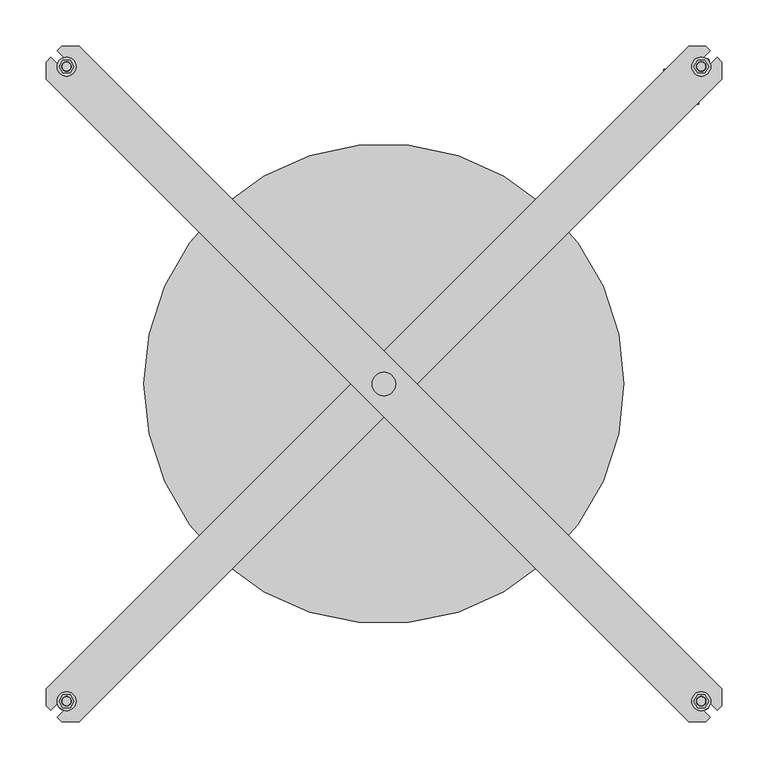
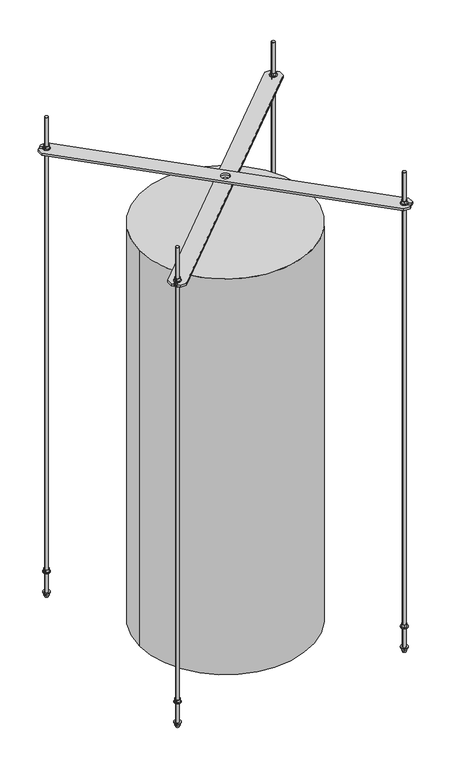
"""IFC4 building model written with IfcOpenShell, lengths in millimetres: proxy geometry, 50 SWHP-C : #50-SWHP-C."""

from ifc_helpers import new_model, si_unit, point, frame, frame_2d, origin, origin_2d, place, context, project, spatial, polyline, circle_curve, trimmed, segment, composite_curve, outline, extrude, source, transform, mapped, element, save
from ifc_brep_helpers import plane_surface, cylinder_surface, revolved_surface, advanced_brep


def generic_models_6d0b2e81(model_context):
    return source(origin(), model_context, "Body", "SolidModel", [
        extrude(outline(composite_curve([segment(trimmed(circle_curve(frame_2d((344.3986, 344.3986)), 10.31875), [point((334.07985, 344.3986))], [point((354.71735, 344.3986))], False, "CARTESIAN"), True, "CONTINUOUS"), segment(trimmed(circle_curve(frame_2d((344.3986, 344.3986)), 10.31875), [point((354.71735, 344.3986))], [point((334.07985, 344.3986))], False, "CARTESIAN"), True, "CONTINUOUS")], self_intersect=False), holes=[composite_curve([segment(trimmed(circle_curve(frame_2d((344.3986, 344.3986)), 5.159375), [point((339.239225, 344.3986))], [point((349.557975, 344.3986))], True, "CARTESIAN"), True, "CONTINUOUS"), segment(trimmed(circle_curve(frame_2d((344.3986, 344.3986)), 5.159375), [point((349.557975, 344.3986))], [point((339.239225, 344.3986))], True, "CARTESIAN"), True, "CONTINUOUS")], self_intersect=False)]), frame((0.0, 0.0, 1416.05), z_axis=(0.0, 0.0, 1.0), x_axis=(1.0, 0.0, 0.0)), (0.0, 0.0, 1.0), 1.5875),
        extrude(outline(polyline([(340.42985, 351.2726766), (348.36735, 351.2726766), (352.3361, 344.3986), (348.36735, 337.5245234), (340.42985, 337.5245234), (336.4611, 344.3986), (340.42985, 351.2726766)]), holes=[composite_curve([segment(trimmed(circle_curve(frame_2d((344.3986, 344.3986)), 5.159375), [point((339.239225, 344.3986))], [point((349.557975, 344.3986))], True, "CARTESIAN"), True, "CONTINUOUS"), segment(trimmed(circle_curve(frame_2d((344.3986, 344.3986)), 5.159375), [point((349.557975, 344.3986))], [point((339.239225, 344.3986))], True, "CARTESIAN"), True, "CONTINUOUS")], self_intersect=False)]), frame((0.0, 0.0, 1417.6375), z_axis=(0.0, 0.0, 1.0), x_axis=(1.0, 0.0, 0.0)), (0.0, 0.0, 1.0), 7.9375),
        extrude(outline(composite_curve([segment(trimmed(circle_curve(frame_2d((-344.3986, 344.3986)), 10.31875), [point((-354.71735, 344.3986))], [point((-334.07985, 344.3986))], False, "CARTESIAN"), True, "CONTINUOUS"), segment(trimmed(circle_curve(frame_2d((-344.3986, 344.3986)), 10.31875), [point((-334.07985, 344.3986))], [point((-354.71735, 344.3986))], False, "CARTESIAN"), True, "CONTINUOUS")], self_intersect=False), holes=[composite_curve([segment(trimmed(circle_curve(frame_2d((-344.3986, 344.3986)), 5.159375), [point((-349.557975, 344.3986))], [point((-339.239225, 344.3986))], True, "CARTESIAN"), True, "CONTINUOUS"), segment(trimmed(circle_curve(frame_2d((-344.3986, 344.3986)), 5.159375), [point((-339.239225, 344.3986))], [point((-349.557975, 344.3986))], True, "CARTESIAN"), True, "CONTINUOUS")], self_intersect=False)]), frame((0.0, 0.0, 1422.4), z_axis=(0.0, 0.0, 1.0), x_axis=(1.0, 0.0, 0.0)), (0.0, 0.0, 1.0), 1.5875),
        extrude(outline(polyline([(-348.36735, 351.2726766), (-340.42985, 351.2726766), (-336.4611, 344.3986), (-340.42985, 337.5245234), (-348.36735, 337.5245234), (-352.3361, 344.3986), (-348.36735, 351.2726766)]), holes=[composite_curve([segment(trimmed(circle_curve(frame_2d((-344.3986, 344.3986)), 5.159375), [point((-349.557975, 344.3986))], [point((-339.239225, 344.3986))], True, "CARTESIAN"), True, "CONTINUOUS"), segment(trimmed(circle_curve(frame_2d((-344.3986, 344.3986)), 5.159375), [point((-339.239225, 344.3986))], [point((-349.557975, 344.3986))], True, "CARTESIAN"), True, "CONTINUOUS")], self_intersect=False)]), frame((0.0, 0.0, 1423.9875), z_axis=(0.0, 0.0, 1.0), x_axis=(1.0, 0.0, 0.0)), (0.0, 0.0, 1.0), 7.9375),
        extrude(outline(composite_curve([segment(trimmed(circle_curve(frame_2d((344.3986, 344.3986)), 10.31875), [point((334.07985, 344.3986))], [point((354.71735, 344.3986))], False, "CARTESIAN"), True, "CONTINUOUS"), segment(trimmed(circle_curve(frame_2d((344.3986, 344.3986)), 10.31875), [point((354.71735, 344.3986))], [point((334.07985, 344.3986))], False, "CARTESIAN"), True, "CONTINUOUS")], self_intersect=False), holes=[composite_curve([segment(trimmed(circle_curve(frame_2d((344.3986, 344.3986)), 5.159375), [point((339.239225, 344.3986))], [point((349.557975, 344.3986))], True, "CARTESIAN"), True, "CONTINUOUS"), segment(trimmed(circle_curve(frame_2d((344.3986, 344.3986)), 5.159375), [point((349.557975, 344.3986))], [point((339.239225, 344.3986))], True, "CARTESIAN"), True, "CONTINUOUS")], self_intersect=False)]), frame((0.0, 0.0, 1408.1125), z_axis=(0.0, 0.0, 1.0), x_axis=(1.0, 0.0, 0.0)), (0.0, 0.0, 1.0), 1.5875),
        extrude(outline(polyline([(340.42985, 351.2726766), (348.36735, 351.2726766), (352.3361, 344.3986), (348.36735, 337.5245234), (340.42985, 337.5245234), (336.4611, 344.3986), (340.42985, 351.2726766)]), holes=[composite_curve([segment(trimmed(circle_curve(frame_2d((344.3986, 344.3986)), 5.159375), [point((339.239225, 344.3986))], [point((349.557975, 344.3986))], True, "CARTESIAN"), True, "CONTINUOUS"), segment(trimmed(circle_curve(frame_2d((344.3986, 344.3986)), 5.159375), [point((349.557975, 344.3986))], [point((339.239225, 344.3986))], True, "CARTESIAN"), True, "CONTINUOUS")], self_intersect=False)]), frame((0.0, 0.0, 1400.175), z_axis=(0.0, 0.0, 1.0), x_axis=(1.0, 0.0, 0.0)), (0.0, 0.0, 1.0), 7.9375),
        extrude(outline(composite_curve([segment(trimmed(circle_curve(frame_2d((-344.3986, 344.3986)), 10.31875), [point((-354.71735, 344.3986))], [point((-334.07985, 344.3986))], False, "CARTESIAN"), True, "CONTINUOUS"), segment(trimmed(circle_curve(frame_2d((-344.3986, 344.3986)), 10.31875), [point((-334.07985, 344.3986))], [point((-354.71735, 344.3986))], False, "CARTESIAN"), True, "CONTINUOUS")], self_intersect=False), holes=[composite_curve([segment(trimmed(circle_curve(frame_2d((-344.3986, 344.3986)), 5.159375), [point((-349.557975, 344.3986))], [point((-339.239225, 344.3986))], True, "CARTESIAN"), True, "CONTINUOUS"), segment(trimmed(circle_curve(frame_2d((-344.3986, 344.3986)), 5.159375), [point((-339.239225, 344.3986))], [point((-349.557975, 344.3986))], True, "CARTESIAN"), True, "CONTINUOUS")], self_intersect=False)]), frame((0.0, 0.0, 1414.4625), z_axis=(0.0, 0.0, 1.0), x_axis=(1.0, 0.0, 0.0)), (0.0, 0.0, 1.0), 1.5875),
        extrude(outline(polyline([(-348.36735, 351.2726766), (-340.42985, 351.2726766), (-336.4611, 344.3986), (-340.42985, 337.5245234), (-348.36735, 337.5245234), (-352.3361, 344.3986), (-348.36735, 351.2726766)]), holes=[composite_curve([segment(trimmed(circle_curve(frame_2d((-344.3986, 344.3986)), 5.159375), [point((-349.557975, 344.3986))], [point((-339.239225, 344.3986))], True, "CARTESIAN"), True, "CONTINUOUS"), segment(trimmed(circle_curve(frame_2d((-344.3986, 344.3986)), 5.159375), [point((-339.239225, 344.3986))], [point((-349.557975, 344.3986))], True, "CARTESIAN"), True, "CONTINUOUS")], self_intersect=False)]), frame((0.0, 0.0, 1406.525), z_axis=(0.0, 0.0, 1.0), x_axis=(1.0, 0.0, 0.0)), (0.0, 0.0, 1.0), 7.9375),
        extrude(outline(composite_curve([segment(trimmed(circle_curve(frame_2d((344.3986, -344.3986)), 10.31875), [point((334.07985, -344.3986))], [point((354.71735, -344.3986))], False, "CARTESIAN"), True, "CONTINUOUS"), segment(trimmed(circle_curve(frame_2d((344.3986, -344.3986)), 10.31875), [point((354.71735, -344.3986))], [point((334.07985, -344.3986))], False, "CARTESIAN"), True, "CONTINUOUS")], self_intersect=False), holes=[composite_curve([segment(trimmed(circle_curve(frame_2d((344.3986, -344.3986)), 5.159375), [point((339.239225, -344.3986))], [point((349.557975, -344.3986))], True, "CARTESIAN"), True, "CONTINUOUS"), segment(trimmed(circle_curve(frame_2d((344.3986, -344.3986)), 5.159375), [point((349.557975, -344.3986))], [point((339.239225, -344.3986))], True, "CARTESIAN"), True, "CONTINUOUS")], self_intersect=False)]), frame((0.0, 0.0, 1414.4625), z_axis=(0.0, 0.0, 1.0), x_axis=(1.0, 0.0, 0.0)), (0.0, 0.0, 1.0), 1.5875),
        extrude(outline(polyline([(340.42985, -337.5245234), (348.36735, -337.5245234), (352.3361, -344.3986), (348.36735, -351.2726766), (340.42985, -351.2726766), (336.4611, -344.3986), (340.42985, -337.5245234)]), holes=[composite_curve([segment(trimmed(circle_curve(frame_2d((344.3986, -344.3986)), 5.159375), [point((339.239225, -344.3986))], [point((349.557975, -344.3986))], True, "CARTESIAN"), True, "CONTINUOUS"), segment(trimmed(circle_curve(frame_2d((344.3986, -344.3986)), 5.159375), [point((349.557975, -344.3986))], [point((339.239225, -344.3986))], True, "CARTESIAN"), True, "CONTINUOUS")], self_intersect=False)]), frame((0.0, 0.0, 1406.525), z_axis=(0.0, 0.0, 1.0), x_axis=(1.0, 0.0, 0.0)), (0.0, 0.0, 1.0), 7.9375),
        extrude(outline(composite_curve([segment(trimmed(circle_curve(frame_2d((-344.3986, -344.3986)), 10.31875), [point((-354.71735, -344.3986))], [point((-334.07985, -344.3986))], False, "CARTESIAN"), True, "CONTINUOUS"), segment(trimmed(circle_curve(frame_2d((-344.3986, -344.3986)), 10.31875), [point((-334.07985, -344.3986))], [point((-354.71735, -344.3986))], False, "CARTESIAN"), True, "CONTINUOUS")], self_intersect=False), holes=[composite_curve([segment(trimmed(circle_curve(frame_2d((-344.3986, -344.3986)), 5.159375), [point((-349.557975, -344.3986))], [point((-339.239225, -344.3986))], True, "CARTESIAN"), True, "CONTINUOUS"), segment(trimmed(circle_curve(frame_2d((-344.3986, -344.3986)), 5.159375), [point((-339.239225, -344.3986))], [point((-349.557975, -344.3986))], True, "CARTESIAN"), True, "CONTINUOUS")], self_intersect=False)]), frame((0.0, 0.0, 1408.1125), z_axis=(0.0, 0.0, 1.0), x_axis=(1.0, 0.0, 0.0)), (0.0, 0.0, 1.0), 1.5875),
        extrude(outline(polyline([(-348.36735, -337.5245234), (-340.42985, -337.5245234), (-336.4611, -344.3986), (-340.42985, -351.2726766), (-348.36735, -351.2726766), (-352.3361, -344.3986), (-348.36735, -337.5245234)]), holes=[composite_curve([segment(trimmed(circle_curve(frame_2d((-344.3986, -344.3986)), 5.159375), [point((-349.557975, -344.3986))], [point((-339.239225, -344.3986))], True, "CARTESIAN"), True, "CONTINUOUS"), segment(trimmed(circle_curve(frame_2d((-344.3986, -344.3986)), 5.159375), [point((-339.239225, -344.3986))], [point((-349.557975, -344.3986))], True, "CARTESIAN"), True, "CONTINUOUS")], self_intersect=False)]), frame((0.0, 0.0, 1400.175), z_axis=(0.0, 0.0, 1.0), x_axis=(1.0, 0.0, 0.0)), (0.0, 0.0, 1.0), 7.9375),
        extrude(outline(composite_curve([segment(trimmed(circle_curve(frame_2d((344.3986, -344.3986)), 10.31875), [point((334.07985, -344.3986))], [point((354.71735, -344.3986))], False, "CARTESIAN"), True, "CONTINUOUS"), segment(trimmed(circle_curve(frame_2d((344.3986, -344.3986)), 10.31875), [point((354.71735, -344.3986))], [point((334.07985, -344.3986))], False, "CARTESIAN"), True, "CONTINUOUS")], self_intersect=False), holes=[composite_curve([segment(trimmed(circle_curve(frame_2d((344.3986, -344.3986)), 5.159375), [point((339.239225, -344.3986))], [point((349.557975, -344.3986))], True, "CARTESIAN"), True, "CONTINUOUS"), segment(trimmed(circle_curve(frame_2d((344.3986, -344.3986)), 5.159375), [point((349.557975, -344.3986))], [point((339.239225, -344.3986))], True, "CARTESIAN"), True, "CONTINUOUS")], self_intersect=False)]), frame((0.0, 0.0, 1422.4), z_axis=(0.0, 0.0, 1.0), x_axis=(1.0, 0.0, 0.0)), (0.0, 0.0, 1.0), 1.5875),
        extrude(outline(polyline([(340.42985, -337.5245234), (348.36735, -337.5245234), (352.3361, -344.3986), (348.36735, -351.2726766), (340.42985, -351.2726766), (336.4611, -344.3986), (340.42985, -337.5245234)]), holes=[composite_curve([segment(trimmed(circle_curve(frame_2d((344.3986, -344.3986)), 5.159375), [point((339.239225, -344.3986))], [point((349.557975, -344.3986))], True, "CARTESIAN"), True, "CONTINUOUS"), segment(trimmed(circle_curve(frame_2d((344.3986, -344.3986)), 5.159375), [point((349.557975, -344.3986))], [point((339.239225, -344.3986))], True, "CARTESIAN"), True, "CONTINUOUS")], self_intersect=False)]), frame((0.0, 0.0, 1423.9875), z_axis=(0.0, 0.0, 1.0), x_axis=(1.0, 0.0, 0.0)), (0.0, 0.0, 1.0), 7.9375),
        extrude(outline(composite_curve([segment(trimmed(circle_curve(frame_2d((-344.3986, -344.3986)), 10.31875), [point((-354.71735, -344.3986))], [point((-334.07985, -344.3986))], False, "CARTESIAN"), True, "CONTINUOUS"), segment(trimmed(circle_curve(frame_2d((-344.3986, -344.3986)), 10.31875), [point((-334.07985, -344.3986))], [point((-354.71735, -344.3986))], False, "CARTESIAN"), True, "CONTINUOUS")], self_intersect=False), holes=[composite_curve([segment(trimmed(circle_curve(frame_2d((-344.3986, -344.3986)), 5.159375), [point((-349.557975, -344.3986))], [point((-339.239225, -344.3986))], True, "CARTESIAN"), True, "CONTINUOUS"), segment(trimmed(circle_curve(frame_2d((-344.3986, -344.3986)), 5.159375), [point((-339.239225, -344.3986))], [point((-349.557975, -344.3986))], True, "CARTESIAN"), True, "CONTINUOUS")], self_intersect=False)]), frame((0.0, 0.0, 1416.05), z_axis=(0.0, 0.0, 1.0), x_axis=(1.0, 0.0, 0.0)), (0.0, 0.0, 1.0), 1.5875),
        extrude(outline(polyline([(-348.36735, -337.5245234), (-340.42985, -337.5245234), (-336.4611, -344.3986), (-340.42985, -351.2726766), (-348.36735, -351.2726766), (-352.3361, -344.3986), (-348.36735, -337.5245234)]), holes=[composite_curve([segment(trimmed(circle_curve(frame_2d((-344.3986, -344.3986)), 5.159375), [point((-349.557975, -344.3986))], [point((-339.239225, -344.3986))], True, "CARTESIAN"), True, "CONTINUOUS"), segment(trimmed(circle_curve(frame_2d((-344.3986, -344.3986)), 5.159375), [point((-339.239225, -344.3986))], [point((-349.557975, -344.3986))], True, "CARTESIAN"), True, "CONTINUOUS")], self_intersect=False)]), frame((0.0, 0.0, 1417.6375), z_axis=(0.0, 0.0, 1.0), x_axis=(1.0, 0.0, 0.0)), (0.0, 0.0, 1.0), 7.9375),
        extrude(outline(composite_curve([segment(trimmed(circle_curve(frame_2d((-344.3986, 344.3986)), 10.31875), [point((-354.71735, 344.3986))], [point((-334.07985, 344.3986))], False, "CARTESIAN"), True, "CONTINUOUS"), segment(trimmed(circle_curve(frame_2d((-344.3986, 344.3986)), 10.31875), [point((-334.07985, 344.3986))], [point((-354.71735, 344.3986))], False, "CARTESIAN"), True, "CONTINUOUS")], self_intersect=False), holes=[composite_curve([segment(trimmed(circle_curve(frame_2d((-344.3986, 344.3986)), 5.159375), [point((-349.557975, 344.3986))], [point((-339.239225, 344.3986))], True, "CARTESIAN"), True, "CONTINUOUS"), segment(trimmed(circle_curve(frame_2d((-344.3986, 344.3986)), 5.159375), [point((-339.239225, 344.3986))], [point((-349.557975, 344.3986))], True, "CARTESIAN"), True, "CONTINUOUS")], self_intersect=False)]), frame((0.0, 0.0, -1.5875), z_axis=(0.0, 0.0, 1.0), x_axis=(1.0, 0.0, 0.0)), (0.0, 0.0, 1.0), 1.5875),
        extrude(outline(polyline([(-348.36735, 351.2726766), (-340.42985, 351.2726766), (-336.4611, 344.3986), (-340.42985, 337.5245234), (-348.36735, 337.5245234), (-352.3361, 344.3986), (-348.36735, 351.2726766)]), holes=[composite_curve([segment(trimmed(circle_curve(frame_2d((-344.3986, 344.3986)), 5.159375), [point((-349.557975, 344.3986))], [point((-339.239225, 344.3986))], True, "CARTESIAN"), True, "CONTINUOUS"), segment(trimmed(circle_curve(frame_2d((-344.3986, 344.3986)), 5.159375), [point((-339.239225, 344.3986))], [point((-349.557975, 344.3986))], True, "CARTESIAN"), True, "CONTINUOUS")], self_intersect=False)]), frame((0.0, 0.0, -9.525), z_axis=(0.0, 0.0, 1.0), x_axis=(1.0, 0.0, 0.0)), (0.0, 0.0, 1.0), 7.9375),
        extrude(outline(composite_curve([segment(trimmed(circle_curve(frame_2d((344.3986, 344.3986)), 10.31875), [point((334.07985, 344.3986))], [point((354.71735, 344.3986))], False, "CARTESIAN"), True, "CONTINUOUS"), segment(trimmed(circle_curve(frame_2d((344.3986, 344.3986)), 10.31875), [point((354.71735, 344.3986))], [point((334.07985, 344.3986))], False, "CARTESIAN"), True, "CONTINUOUS")], self_intersect=False), holes=[composite_curve([segment(trimmed(circle_curve(frame_2d((344.3986, 344.3986)), 5.159375), [point((339.239225, 344.3986))], [point((349.557975, 344.3986))], True, "CARTESIAN"), True, "CONTINUOUS"), segment(trimmed(circle_curve(frame_2d((344.3986, 344.3986)), 5.159375), [point((349.557975, 344.3986))], [point((339.239225, 344.3986))], True, "CARTESIAN"), True, "CONTINUOUS")], self_intersect=False)]), frame((0.0, 0.0, -1.5875), z_axis=(0.0, 0.0, 1.0), x_axis=(1.0, 0.0, 0.0)), (0.0, 0.0, 1.0), 1.5875),
        extrude(outline(polyline([(340.42985, 351.2726766), (348.36735, 351.2726766), (352.3361, 344.3986), (348.36735, 337.5245234), (340.42985, 337.5245234), (336.4611, 344.3986), (340.42985, 351.2726766)]), holes=[composite_curve([segment(trimmed(circle_curve(frame_2d((344.3986, 344.3986)), 5.159375), [point((339.239225, 344.3986))], [point((349.557975, 344.3986))], True, "CARTESIAN"), True, "CONTINUOUS"), segment(trimmed(circle_curve(frame_2d((344.3986, 344.3986)), 5.159375), [point((349.557975, 344.3986))], [point((339.239225, 344.3986))], True, "CARTESIAN"), True, "CONTINUOUS")], self_intersect=False)]), frame((0.0, 0.0, -9.525), z_axis=(0.0, 0.0, 1.0), x_axis=(1.0, 0.0, 0.0)), (0.0, 0.0, 1.0), 7.9375),
        extrude(outline(composite_curve([segment(trimmed(circle_curve(frame_2d((-344.3986, 344.3986)), 10.31875), [point((-354.71735, 344.3986))], [point((-334.07985, 344.3986))], False, "CARTESIAN"), True, "CONTINUOUS"), segment(trimmed(circle_curve(frame_2d((-344.3986, 344.3986)), 10.31875), [point((-334.07985, 344.3986))], [point((-354.71735, 344.3986))], False, "CARTESIAN"), True, "CONTINUOUS")], self_intersect=False), holes=[composite_curve([segment(trimmed(circle_curve(frame_2d((-344.3986, 344.3986)), 5.159375), [point((-349.557975, 344.3986))], [point((-339.239225, 344.3986))], True, "CARTESIAN"), True, "CONTINUOUS"), segment(trimmed(circle_curve(frame_2d((-344.3986, 344.3986)), 5.159375), [point((-339.239225, 344.3986))], [point((-349.557975, 344.3986))], True, "CARTESIAN"), True, "CONTINUOUS")], self_intersect=False)]), frame((0.0, 0.0, 63.5), z_axis=(0.0, 0.0, 1.0), x_axis=(1.0, 0.0, 0.0)), (0.0, 0.0, 1.0), 1.5875),
        extrude(outline(polyline([(-348.36735, 351.2726766), (-340.42985, 351.2726766), (-336.4611, 344.3986), (-340.42985, 337.5245234), (-348.36735, 337.5245234), (-352.3361, 344.3986), (-348.36735, 351.2726766)]), holes=[composite_curve([segment(trimmed(circle_curve(frame_2d((-344.3986, 344.3986)), 5.159375), [point((-349.557975, 344.3986))], [point((-339.239225, 344.3986))], True, "CARTESIAN"), True, "CONTINUOUS"), segment(trimmed(circle_curve(frame_2d((-344.3986, 344.3986)), 5.159375), [point((-339.239225, 344.3986))], [point((-349.557975, 344.3986))], True, "CARTESIAN"), True, "CONTINUOUS")], self_intersect=False)]), frame((0.0, 0.0, 65.0875), z_axis=(0.0, 0.0, 1.0), x_axis=(1.0, 0.0, 0.0)), (0.0, 0.0, 1.0), 7.9375),
        extrude(outline(composite_curve([segment(trimmed(circle_curve(frame_2d((344.3986, 344.3986)), 10.31875), [point((334.07985, 344.3986))], [point((354.71735, 344.3986))], False, "CARTESIAN"), True, "CONTINUOUS"), segment(trimmed(circle_curve(frame_2d((344.3986, 344.3986)), 10.31875), [point((354.71735, 344.3986))], [point((334.07985, 344.3986))], False, "CARTESIAN"), True, "CONTINUOUS")], self_intersect=False), holes=[composite_curve([segment(trimmed(circle_curve(frame_2d((344.3986, 344.3986)), 5.159375), [point((339.239225, 344.3986))], [point((349.557975, 344.3986))], True, "CARTESIAN"), True, "CONTINUOUS"), segment(trimmed(circle_curve(frame_2d((344.3986, 344.3986)), 5.159375), [point((349.557975, 344.3986))], [point((339.239225, 344.3986))], True, "CARTESIAN"), True, "CONTINUOUS")], self_intersect=False)]), frame((0.0, 0.0, 63.5), z_axis=(0.0, 0.0, 1.0), x_axis=(1.0, 0.0, 0.0)), (0.0, 0.0, 1.0), 1.5875),
        extrude(outline(polyline([(340.42985, 351.2726766), (348.36735, 351.2726766), (352.3361, 344.3986), (348.36735, 337.5245234), (340.42985, 337.5245234), (336.4611, 344.3986), (340.42985, 351.2726766)]), holes=[composite_curve([segment(trimmed(circle_curve(frame_2d((344.3986, 344.3986)), 5.159375), [point((339.239225, 344.3986))], [point((349.557975, 344.3986))], True, "CARTESIAN"), True, "CONTINUOUS"), segment(trimmed(circle_curve(frame_2d((344.3986, 344.3986)), 5.159375), [point((349.557975, 344.3986))], [point((339.239225, 344.3986))], True, "CARTESIAN"), True, "CONTINUOUS")], self_intersect=False)]), frame((0.0, 0.0, 65.0875), z_axis=(0.0, 0.0, 1.0), x_axis=(1.0, 0.0, 0.0)), (0.0, 0.0, 1.0), 7.9375),
        extrude(outline(composite_curve([segment(trimmed(circle_curve(frame_2d((344.3986, -344.3986)), 10.31875), [point((334.07985, -344.3986))], [point((354.71735, -344.3986))], False, "CARTESIAN"), True, "CONTINUOUS"), segment(trimmed(circle_curve(frame_2d((344.3986, -344.3986)), 10.31875), [point((354.71735, -344.3986))], [point((334.07985, -344.3986))], False, "CARTESIAN"), True, "CONTINUOUS")], self_intersect=False), holes=[composite_curve([segment(trimmed(circle_curve(frame_2d((344.3986, -344.3986)), 5.159375), [point((339.239225, -344.3986))], [point((349.557975, -344.3986))], True, "CARTESIAN"), True, "CONTINUOUS"), segment(trimmed(circle_curve(frame_2d((344.3986, -344.3986)), 5.159375), [point((349.557975, -344.3986))], [point((339.239225, -344.3986))], True, "CARTESIAN"), True, "CONTINUOUS")], self_intersect=False)]), frame((0.0, 0.0, -1.5875), z_axis=(0.0, 0.0, 1.0), x_axis=(1.0, 0.0, 0.0)), (0.0, 0.0, 1.0), 1.5875),
        extrude(outline(polyline([(340.42985, -337.5245234), (348.36735, -337.5245234), (352.3361, -344.3986), (348.36735, -351.2726766), (340.42985, -351.2726766), (336.4611, -344.3986), (340.42985, -337.5245234)]), holes=[composite_curve([segment(trimmed(circle_curve(frame_2d((344.3986, -344.3986)), 5.159375), [point((339.239225, -344.3986))], [point((349.557975, -344.3986))], True, "CARTESIAN"), True, "CONTINUOUS"), segment(trimmed(circle_curve(frame_2d((344.3986, -344.3986)), 5.159375), [point((349.557975, -344.3986))], [point((339.239225, -344.3986))], True, "CARTESIAN"), True, "CONTINUOUS")], self_intersect=False)]), frame((0.0, 0.0, -9.525), z_axis=(0.0, 0.0, 1.0), x_axis=(1.0, 0.0, 0.0)), (0.0, 0.0, 1.0), 7.9375),
        extrude(outline(composite_curve([segment(trimmed(circle_curve(frame_2d((344.3986, -344.3986)), 10.31875), [point((334.07985, -344.3986))], [point((354.71735, -344.3986))], False, "CARTESIAN"), True, "CONTINUOUS"), segment(trimmed(circle_curve(frame_2d((344.3986, -344.3986)), 10.31875), [point((354.71735, -344.3986))], [point((334.07985, -344.3986))], False, "CARTESIAN"), True, "CONTINUOUS")], self_intersect=False), holes=[composite_curve([segment(trimmed(circle_curve(frame_2d((344.3986, -344.3986)), 5.159375), [point((339.239225, -344.3986))], [point((349.557975, -344.3986))], True, "CARTESIAN"), True, "CONTINUOUS"), segment(trimmed(circle_curve(frame_2d((344.3986, -344.3986)), 5.159375), [point((349.557975, -344.3986))], [point((339.239225, -344.3986))], True, "CARTESIAN"), True, "CONTINUOUS")], self_intersect=False)]), frame((0.0, 0.0, 63.5), z_axis=(0.0, 0.0, 1.0), x_axis=(1.0, 0.0, 0.0)), (0.0, 0.0, 1.0), 1.5875),
        extrude(outline(polyline([(340.42985, -337.5245234), (348.36735, -337.5245234), (352.3361, -344.3986), (348.36735, -351.2726766), (340.42985, -351.2726766), (336.4611, -344.3986), (340.42985, -337.5245234)]), holes=[composite_curve([segment(trimmed(circle_curve(frame_2d((344.3986, -344.3986)), 5.159375), [point((339.239225, -344.3986))], [point((349.557975, -344.3986))], True, "CARTESIAN"), True, "CONTINUOUS"), segment(trimmed(circle_curve(frame_2d((344.3986, -344.3986)), 5.159375), [point((349.557975, -344.3986))], [point((339.239225, -344.3986))], True, "CARTESIAN"), True, "CONTINUOUS")], self_intersect=False)]), frame((0.0, 0.0, 65.0875), z_axis=(0.0, 0.0, 1.0), x_axis=(1.0, 0.0, 0.0)), (0.0, 0.0, 1.0), 7.9375),
        extrude(outline(composite_curve([segment(trimmed(circle_curve(frame_2d((-344.3986, -344.3986)), 10.31875), [point((-354.71735, -344.3986))], [point((-334.07985, -344.3986))], False, "CARTESIAN"), True, "CONTINUOUS"), segment(trimmed(circle_curve(frame_2d((-344.3986, -344.3986)), 10.31875), [point((-334.07985, -344.3986))], [point((-354.71735, -344.3986))], False, "CARTESIAN"), True, "CONTINUOUS")], self_intersect=False), holes=[composite_curve([segment(trimmed(circle_curve(frame_2d((-344.3986, -344.3986)), 5.159375), [point((-349.557975, -344.3986))], [point((-339.239225, -344.3986))], True, "CARTESIAN"), True, "CONTINUOUS"), segment(trimmed(circle_curve(frame_2d((-344.3986, -344.3986)), 5.159375), [point((-339.239225, -344.3986))], [point((-349.557975, -344.3986))], True, "CARTESIAN"), True, "CONTINUOUS")], self_intersect=False)]), frame((0.0, 0.0, 63.5), z_axis=(0.0, 0.0, 1.0), x_axis=(1.0, 0.0, 0.0)), (0.0, 0.0, 1.0), 1.5875),
        extrude(outline(polyline([(-348.36735, -337.5245234), (-340.42985, -337.5245234), (-336.4611, -344.3986), (-340.42985, -351.2726766), (-348.36735, -351.2726766), (-352.3361, -344.3986), (-348.36735, -337.5245234)]), holes=[composite_curve([segment(trimmed(circle_curve(frame_2d((-344.3986, -344.3986)), 5.159375), [point((-349.557975, -344.3986))], [point((-339.239225, -344.3986))], True, "CARTESIAN"), True, "CONTINUOUS"), segment(trimmed(circle_curve(frame_2d((-344.3986, -344.3986)), 5.159375), [point((-339.239225, -344.3986))], [point((-349.557975, -344.3986))], True, "CARTESIAN"), True, "CONTINUOUS")], self_intersect=False)]), frame((0.0, 0.0, 65.0875), z_axis=(0.0, 0.0, 1.0), x_axis=(1.0, 0.0, 0.0)), (0.0, 0.0, 1.0), 7.9375),
        extrude(outline(composite_curve([segment(trimmed(circle_curve(frame_2d((-344.3986, -344.3986)), 10.31875), [point((-354.71735, -344.3986))], [point((-334.07985, -344.3986))], False, "CARTESIAN"), True, "CONTINUOUS"), segment(trimmed(circle_curve(frame_2d((-344.3986, -344.3986)), 10.31875), [point((-334.07985, -344.3986))], [point((-354.71735, -344.3986))], False, "CARTESIAN"), True, "CONTINUOUS")], self_intersect=False), holes=[composite_curve([segment(trimmed(circle_curve(frame_2d((-344.3986, -344.3986)), 5.159375), [point((-349.557975, -344.3986))], [point((-339.239225, -344.3986))], True, "CARTESIAN"), True, "CONTINUOUS"), segment(trimmed(circle_curve(frame_2d((-344.3986, -344.3986)), 5.159375), [point((-339.239225, -344.3986))], [point((-349.557975, -344.3986))], True, "CARTESIAN"), True, "CONTINUOUS")], self_intersect=False)]), frame((0.0, 0.0, -1.5875), z_axis=(0.0, 0.0, 1.0), x_axis=(1.0, 0.0, 0.0)), (0.0, 0.0, 1.0), 1.5875),
        extrude(outline(polyline([(-348.36735, -337.5245234), (-340.42985, -337.5245234), (-336.4611, -344.3986), (-340.42985, -351.2726766), (-348.36735, -351.2726766), (-352.3361, -344.3986), (-348.36735, -337.5245234)]), holes=[composite_curve([segment(trimmed(circle_curve(frame_2d((-344.3986, -344.3986)), 5.159375), [point((-349.557975, -344.3986))], [point((-339.239225, -344.3986))], True, "CARTESIAN"), True, "CONTINUOUS"), segment(trimmed(circle_curve(frame_2d((-344.3986, -344.3986)), 5.159375), [point((-339.239225, -344.3986))], [point((-349.557975, -344.3986))], True, "CARTESIAN"), True, "CONTINUOUS")], self_intersect=False)]), frame((0.0, 0.0, -9.525), z_axis=(0.0, 0.0, 1.0), x_axis=(1.0, 0.0, 0.0)), (0.0, 0.0, 1.0), 7.9375),
        extrude(outline(polyline([(-366.6236, -330.7234109), (330.7234103, 366.6236), (349.3413509, 366.6236), (354.3342464, 361.6307045), (337.4962662, 344.7927243), (344.7927243, 337.4962662), (361.6307045, 354.3342464), (366.6236, 349.3413509), (366.6236, 330.7234109), (-330.7234103, -366.6236), (-349.3413509, -366.6236), (-354.3342464, -361.6307045), (-337.4962662, -344.7927243), (-344.7927243, -337.4962662), (-361.6307045, -354.3342464), (-366.6236, -349.3413509), (-366.6236, -330.7234109)]), holes=[composite_curve([segment(trimmed(circle_curve(origin_2d(), 12.7), [point((12.7, 0.0))], [point((-12.7, 0.0))], True, "CARTESIAN"), True, "CONTINUOUS"), segment(trimmed(circle_curve(origin_2d(), 12.7), [point((-12.7, 0.0))], [point((12.7, 0.0))], True, "CARTESIAN"), True, "CONTINUOUS")], self_intersect=False)]), frame((0.0, 0.0, 1409.7), z_axis=(0.0, 0.0, 1.0), x_axis=(1.0, 0.0, 0.0)), (0.0, 0.0, 1.0), 6.35),
        extrude(outline(polyline([(366.6236, -330.7234109), (366.6236, -349.3413509), (361.6307045, -354.3342464), (344.7927243, -337.4962662), (337.4962662, -344.7927243), (354.3342464, -361.6307045), (349.3413509, -366.6236), (330.7234103, -366.6236), (-366.6236, 330.7234109), (-366.6236, 349.3413509), (-361.6307045, 354.3342464), (-344.7927243, 337.4962662), (-337.4962662, 344.7927243), (-354.3342464, 361.6307045), (-349.3413509, 366.6236), (-330.7234103, 366.6236), (366.6236, -330.7234109)]), holes=[composite_curve([segment(trimmed(circle_curve(origin_2d(), 12.7), [point((-12.7, 0.0))], [point((12.7, 0.0))], True, "CARTESIAN"), True, "CONTINUOUS"), segment(trimmed(circle_curve(origin_2d(), 12.7), [point((12.7, 0.0))], [point((-12.7, 0.0))], True, "CARTESIAN"), True, "CONTINUOUS")], self_intersect=False)]), frame((0.0, 0.0, 1416.05), z_axis=(0.0, 0.0, 1.0), x_axis=(1.0, 0.0, 0.0)), (0.0, 0.0, 1.0), 6.35),
        extrude(outline(composite_curve([segment(trimmed(circle_curve(origin_2d(), 260.35), [point((-260.35, 0.0))], [point((260.35, 0.0))], False, "CARTESIAN"), True, "CONTINUOUS"), segment(trimmed(circle_curve(origin_2d(), 260.35), [point((260.35, 0.0))], [point((-260.35, 0.0))], False, "CARTESIAN"), True, "CONTINUOUS")], self_intersect=False)), frame((0.0, 0.0, 3.175), z_axis=(0.0, 0.0, 1.0), x_axis=(1.0, 0.0, 0.0)), (0.0, 0.0, 1.0), 1270.0),
        extrude(outline(composite_curve([segment(trimmed(circle_curve(frame_2d((344.3986, 344.3986)), 4.7625), [point((339.6361, 344.3986))], [point((349.1611, 344.3986))], False, "CARTESIAN"), True, "CONTINUOUS"), segment(trimmed(circle_curve(frame_2d((344.3986, 344.3986)), 4.7625), [point((349.1611, 344.3986))], [point((339.6361, 344.3986))], False, "CARTESIAN"), True, "CONTINUOUS")], self_intersect=False)), frame((0.0, 0.0, -15.875), z_axis=(0.0, 0.0, 1.0), x_axis=(1.0, 0.0, 0.0)), (0.0, 0.0, 1.0), 1539.875),
        extrude(outline(composite_curve([segment(trimmed(circle_curve(frame_2d((-344.3986, 344.3986)), 4.7625), [point((-349.1611, 344.3986))], [point((-339.6361, 344.3986))], False, "CARTESIAN"), True, "CONTINUOUS"), segment(trimmed(circle_curve(frame_2d((-344.3986, 344.3986)), 4.7625), [point((-339.6361, 344.3986))], [point((-349.1611, 344.3986))], False, "CARTESIAN"), True, "CONTINUOUS")], self_intersect=False)), frame((0.0, 0.0, -15.875), z_axis=(0.0, 0.0, 1.0), x_axis=(1.0, 0.0, 0.0)), (0.0, 0.0, 1.0), 1539.875),
        extrude(outline(composite_curve([segment(trimmed(circle_curve(frame_2d((344.3986, -344.3986)), 4.7625), [point((339.6361, -344.3986))], [point((349.1611, -344.3986))], False, "CARTESIAN"), True, "CONTINUOUS"), segment(trimmed(circle_curve(frame_2d((344.3986, -344.3986)), 4.7625), [point((349.1611, -344.3986))], [point((339.6361, -344.3986))], False, "CARTESIAN"), True, "CONTINUOUS")], self_intersect=False)), frame((0.0, 0.0, -15.875), z_axis=(0.0, 0.0, 1.0), x_axis=(1.0, 0.0, 0.0)), (0.0, 0.0, 1.0), 1539.875),
        extrude(outline(composite_curve([segment(trimmed(circle_curve(frame_2d((-344.3986, -344.3986)), 4.7625), [point((-349.1611, -344.3986))], [point((-339.6361, -344.3986))], False, "CARTESIAN"), True, "CONTINUOUS"), segment(trimmed(circle_curve(frame_2d((-344.3986, -344.3986)), 4.7625), [point((-339.6361, -344.3986))], [point((-349.1611, -344.3986))], False, "CARTESIAN"), True, "CONTINUOUS")], self_intersect=False)), frame((0.0, 0.0, -15.875), z_axis=(0.0, 0.0, 1.0), x_axis=(1.0, 0.0, 0.0)), (0.0, 0.0, 1.0), 1539.875),
        advanced_brep(
        [(303.7332, 341.7316, 63.5), (303.7332, 339.725, 63.5), (334.8736, 339.725, 63.5), (337.6422, 342.4936, 63.5), (337.6422, 350.393, 63.5), (338.4042, 351.155, 63.5), (350.393, 351.155, 63.5), (351.155, 350.393, 63.5), (351.155, 338.4042, 63.5), (350.393, 337.6422, 63.5), (342.4936, 337.6422, 63.5), (339.725, 334.8736, 63.5), (339.725, 303.7332, 63.5), (341.7316, 303.7332, 63.5), (341.7316, 334.8736, 63.5), (342.4936, 335.6356, 63.5), (350.393, 335.6356, 63.5), (353.1616, 338.4042, 63.5), (353.1616, 350.393, 63.5), (350.393, 353.1616, 63.5), (338.4042, 353.1616, 63.5), (335.6356, 350.393, 63.5), (335.6356, 342.4936, 63.5), (334.8736, 341.7316, 63.5), (303.7332, 341.7316, 0.0), (334.8736, 341.7316, 0.0), (335.6356, 342.4936, 0.0), (335.6356, 350.393, 0.0), (338.4042, 353.1616, 0.0), (350.393, 353.1616, 0.0), (353.1616, 350.393, 0.0), (353.1616, 338.4042, 0.0), (350.393, 335.6356, 0.0), (342.4936, 335.6356, 0.0), (341.7316, 334.8736, 0.0), (341.7316, 303.7332, 0.0), (339.725, 303.7332, 0.0), (339.725, 334.8736, 0.0), (342.4936, 337.6422, 0.0), (350.393, 337.6422, 0.0), (351.155, 338.4042, 0.0), (351.155, 350.393, 0.0), (350.393, 351.155, 0.0), (338.4042, 351.155, 0.0), (337.6422, 350.393, 0.0), (337.6422, 342.4936, 0.0), (334.8736, 339.725, 0.0), (303.7332, 339.725, 0.0), (321.0687, 339.725, 25.4), (313.9313, 339.725, 25.4), (321.0687, 339.725, 47.625), (313.9313, 339.725, 47.625), (339.725, 313.9313, 47.625), (339.725, 321.0687, 47.625), (339.725, 313.9313, 25.4), (339.725, 321.0687, 25.4), (341.7316, 321.0687, 47.625), (341.7316, 313.9313, 47.625), (341.7316, 321.0687, 25.4), (341.7316, 313.9313, 25.4), (313.9313, 341.7316, 25.4), (321.0687, 341.7316, 25.4), (313.9313, 341.7316, 47.625), (321.0687, 341.7316, 47.625)],
        [
            (0, 1),
            (1, 2),
            (2, 3, circle_curve(frame((334.8736, 342.4936, 63.5), z_axis=(0.0, 0.0, 1.0), x_axis=(1.0, 0.0, 0.0)), 2.7686)),
            (3, 4),
            (4, 5, circle_curve(frame((338.4042, 350.393, 63.5), z_axis=(0.0, 0.0, -1.0), x_axis=(1.0, 0.0, 0.0)), 0.762)),
            (5, 6),
            (6, 7, circle_curve(frame((350.393, 350.393, 63.5), z_axis=(0.0, 0.0, -1.0), x_axis=(1.0, 0.0, 0.0)), 0.762)),
            (7, 8),
            (8, 9, circle_curve(frame((350.393, 338.4042, 63.5), z_axis=(0.0, 0.0, -1.0), x_axis=(1.0, 0.0, 0.0)), 0.762)),
            (9, 10),
            (10, 11, circle_curve(frame((342.4936, 334.8736, 63.5), z_axis=(0.0, 0.0, 1.0), x_axis=(1.0, 0.0, 0.0)), 2.7686)),
            (11, 12),
            (12, 13),
            (13, 14),
            (14, 15, circle_curve(frame((342.4936, 334.8736, 63.5), z_axis=(0.0, 0.0, -1.0), x_axis=(1.0, 0.0, 0.0)), 0.762)),
            (15, 16),
            (16, 17, circle_curve(frame((350.393, 338.4042, 63.5), z_axis=(0.0, 0.0, 1.0), x_axis=(1.0, 0.0, 0.0)), 2.7686)),
            (17, 18),
            (18, 19, circle_curve(frame((350.393, 350.393, 63.5), z_axis=(0.0, 0.0, 1.0), x_axis=(1.0, 0.0, 0.0)), 2.7686)),
            (19, 20),
            (20, 21, circle_curve(frame((338.4042, 350.393, 63.5), z_axis=(0.0, 0.0, 1.0), x_axis=(1.0, 0.0, 0.0)), 2.7686)),
            (21, 22),
            (22, 23, circle_curve(frame((334.8736, 342.4936, 63.5), z_axis=(0.0, 0.0, -1.0), x_axis=(1.0, 0.0, 0.0)), 0.762)),
            (23, 0),
            (24, 25),
            (25, 26, circle_curve(frame((334.8736, 342.4936, 0.0), z_axis=(0.0, 0.0, 1.0), x_axis=(1.0, 0.0, 0.0)), 0.762)),
            (26, 27),
            (27, 28, circle_curve(frame((338.4042, 350.393, 0.0), z_axis=(0.0, 0.0, -1.0), x_axis=(1.0, 0.0, 0.0)), 2.7686)),
            (28, 29),
            (29, 30, circle_curve(frame((350.393, 350.393, 0.0), z_axis=(0.0, 0.0, -1.0), x_axis=(1.0, 0.0, 0.0)), 2.7686)),
            (30, 31),
            (31, 32, circle_curve(frame((350.393, 338.4042, 0.0), z_axis=(0.0, 0.0, -1.0), x_axis=(1.0, 0.0, 0.0)), 2.7686)),
            (32, 33),
            (33, 34, circle_curve(frame((342.4936, 334.8736, 0.0), z_axis=(0.0, 0.0, 1.0), x_axis=(1.0, 0.0, 0.0)), 0.762)),
            (34, 35),
            (35, 36),
            (36, 37),
            (37, 38, circle_curve(frame((342.4936, 334.8736, 0.0), z_axis=(0.0, 0.0, -1.0), x_axis=(1.0, 0.0, 0.0)), 2.7686)),
            (38, 39),
            (39, 40, circle_curve(frame((350.393, 338.4042, 0.0), z_axis=(0.0, 0.0, 1.0), x_axis=(1.0, 0.0, 0.0)), 0.762)),
            (40, 41),
            (41, 42, circle_curve(frame((350.393, 350.393, 0.0), z_axis=(0.0, 0.0, 1.0), x_axis=(1.0, 0.0, 0.0)), 0.762)),
            (42, 43),
            (43, 44, circle_curve(frame((338.4042, 350.393, 0.0), z_axis=(0.0, 0.0, 1.0), x_axis=(1.0, 0.0, 0.0)), 0.762)),
            (44, 45),
            (45, 46, circle_curve(frame((334.8736, 342.4936, 0.0), z_axis=(0.0, 0.0, -1.0), x_axis=(1.0, 0.0, 0.0)), 2.7686)),
            (46, 47),
            (47, 24),
            (0, 24),
            (47, 1),
            (46, 2),
            (48, 49, circle_curve(frame((317.5, 339.725, 25.4), z_axis=(0.0, 1.0, 0.0), x_axis=(-1.0, 0.0, 0.0)), 3.5687)),
            (49, 48, circle_curve(frame((317.5, 339.725, 25.4), z_axis=(0.0, 1.0, 0.0), x_axis=(-1.0, 0.0, 0.0)), 3.5687)),
            (50, 51, circle_curve(frame((317.5, 339.725, 47.625), z_axis=(0.0, 1.0, 0.0), x_axis=(-1.0, 0.0, 0.0)), 3.5687)),
            (51, 50, circle_curve(frame((317.5, 339.725, 47.625), z_axis=(0.0, 1.0, 0.0), x_axis=(-1.0, 0.0, 0.0)), 3.5687)),
            (45, 3),
            (44, 4),
            (43, 5),
            (42, 6),
            (41, 7),
            (40, 8),
            (39, 9),
            (38, 10),
            (37, 11),
            (36, 12),
            (52, 53, circle_curve(frame((339.725, 317.5, 47.625), z_axis=(1.0, 0.0, 0.0), x_axis=(0.0, -1.0, 0.0)), 3.5687)),
            (53, 52, circle_curve(frame((339.725, 317.5, 47.625), z_axis=(1.0, 0.0, 0.0), x_axis=(0.0, -1.0, 0.0)), 3.5687)),
            (54, 55, circle_curve(frame((339.725, 317.5, 25.4), z_axis=(1.0, 0.0, 0.0), x_axis=(0.0, -1.0, 0.0)), 3.5687)),
            (55, 54, circle_curve(frame((339.725, 317.5, 25.4), z_axis=(1.0, 0.0, 0.0), x_axis=(0.0, -1.0, 0.0)), 3.5687)),
            (35, 13),
            (34, 14),
            (56, 57, circle_curve(frame((341.7316, 317.5, 47.625), z_axis=(-1.0, 0.0, 0.0), x_axis=(0.0, -1.0, 0.0)), 3.5687)),
            (57, 56, circle_curve(frame((341.7316, 317.5, 47.625), z_axis=(-1.0, 0.0, 0.0), x_axis=(0.0, -1.0, 0.0)), 3.5687)),
            (58, 59, circle_curve(frame((341.7316, 317.5, 25.4), z_axis=(-1.0, 0.0, 0.0), x_axis=(0.0, -1.0, 0.0)), 3.5687)),
            (59, 58, circle_curve(frame((341.7316, 317.5, 25.4), z_axis=(-1.0, 0.0, 0.0), x_axis=(0.0, -1.0, 0.0)), 3.5687)),
            (33, 15),
            (32, 16),
            (31, 17),
            (30, 18),
            (29, 19),
            (28, 20),
            (27, 21),
            (26, 22),
            (25, 23),
            (60, 61, circle_curve(frame((317.5, 341.7316, 25.4), z_axis=(0.0, -1.0, 0.0), x_axis=(-1.0, 0.0, 0.0)), 3.5687)),
            (61, 60, circle_curve(frame((317.5, 341.7316, 25.4), z_axis=(0.0, -1.0, 0.0), x_axis=(-1.0, 0.0, 0.0)), 3.5687)),
            (62, 63, circle_curve(frame((317.5, 341.7316, 47.625), z_axis=(0.0, -1.0, 0.0), x_axis=(-1.0, 0.0, 0.0)), 3.5687)),
            (63, 62, circle_curve(frame((317.5, 341.7316, 47.625), z_axis=(0.0, -1.0, 0.0), x_axis=(-1.0, 0.0, 0.0)), 3.5687)),
            (56, 53),
            (52, 57),
            (58, 55),
            (54, 59),
            (48, 61),
            (60, 49),
            (50, 63),
            (62, 51),
        ],
        [
            plane_surface(frame((303.7332, 339.725, 63.5), z_axis=(0.0, 0.0, 1.0), x_axis=(0.0, -1.0, 0.0))),
            plane_surface(frame((303.7332, 339.725, 0.0), z_axis=(0.0, 0.0, -1.0), x_axis=(0.0, 1.0, 0.0))),
            plane_surface(frame((303.7332, 341.7316, 63.5), z_axis=(-1.0, 0.0, 0.0), x_axis=(0.0, 0.0, -1.0))),
            plane_surface(frame((303.7332, 339.725, 63.5), z_axis=(0.0, -1.0, 0.0), x_axis=(0.0, 0.0, -1.0))),
            cylinder_surface(frame((334.8736, 342.4936, 0.0), z_axis=(0.0, 0.0, 1.0), x_axis=(1.0, 0.0, 0.0)), 2.7686),
            plane_surface(frame((337.6422, 342.4936, 63.5), z_axis=(1.0, 0.0, 0.0), x_axis=(0.0, 0.0, -1.0))),
            revolved_surface(polyline([(339.1662, 350.393, 0.0), (339.1662, 350.393, 63.5)]), (338.4042, 350.393, 0.0), (0.0, 0.0, -1.0)),
            plane_surface(frame((338.4042, 351.155, 63.5), z_axis=(0.0, -1.0, 0.0), x_axis=(0.0, 0.0, -1.0))),
            revolved_surface(polyline([(351.155, 350.393, 0.0), (351.155, 350.393, 63.5)]), (350.393, 350.393, 0.0), (0.0, 0.0, -1.0)),
            plane_surface(frame((351.155, 350.393, 63.5), z_axis=(-1.0, 0.0, 0.0), x_axis=(0.0, 0.0, -1.0))),
            revolved_surface(polyline([(351.155, 338.4042, 0.0), (351.155, 338.4042, 63.5)]), (350.393, 338.4042, 0.0), (0.0, 0.0, -1.0)),
            plane_surface(frame((350.393, 337.6422, 63.5), z_axis=(0.0, 1.0, 0.0), x_axis=(0.0, 0.0, -1.0))),
            cylinder_surface(frame((342.4936, 334.8736, 0.0), z_axis=(0.0, 0.0, 1.0), x_axis=(1.0, 0.0, 0.0)), 2.7686),
            plane_surface(frame((339.725, 334.8736, 63.5), z_axis=(-1.0, 0.0, 0.0), x_axis=(0.0, 0.0, -1.0))),
            plane_surface(frame((339.725, 303.7332, 63.5), z_axis=(0.0, -1.0, 0.0), x_axis=(0.0, 0.0, -1.0))),
            plane_surface(frame((341.7316, 303.7332, 63.5), z_axis=(1.0, 0.0, 0.0), x_axis=(0.0, 0.0, -1.0))),
            revolved_surface(polyline([(343.2556, 334.8736, 0.0), (343.2556, 334.8736, 63.5)]), (342.4936, 334.8736, 0.0), (0.0, 0.0, -1.0)),
            plane_surface(frame((342.4936, 335.6356, 63.5), z_axis=(0.0, -1.0, 0.0), x_axis=(0.0, 0.0, -1.0))),
            cylinder_surface(frame((350.393, 338.4042, 0.0), z_axis=(0.0, 0.0, 1.0), x_axis=(1.0, 0.0, 0.0)), 2.7686),
            plane_surface(frame((353.1616, 338.4042, 63.5), z_axis=(1.0, 0.0, 0.0), x_axis=(0.0, 0.0, -1.0))),
            cylinder_surface(frame((350.393, 350.393, 0.0), z_axis=(0.0, 0.0, 1.0), x_axis=(1.0, 0.0, 0.0)), 2.7686),
            plane_surface(frame((350.393, 353.1616, 63.5), z_axis=(0.0, 1.0, 0.0), x_axis=(0.0, 0.0, -1.0))),
            cylinder_surface(frame((338.4042, 350.393, 0.0), z_axis=(0.0, 0.0, 1.0), x_axis=(1.0, 0.0, 0.0)), 2.7686),
            plane_surface(frame((335.6356, 350.393, 63.5), z_axis=(-1.0, 0.0, 0.0), x_axis=(0.0, 0.0, -1.0))),
            revolved_surface(polyline([(335.6356, 342.4936, 0.0), (335.6356, 342.4936, 63.5)]), (334.8736, 342.4936, 0.0), (0.0, 0.0, -1.0)),
            plane_surface(frame((334.8736, 341.7316, 63.5), z_axis=(0.0, 1.0, 0.0), x_axis=(0.0, 0.0, -1.0))),
            revolved_surface(polyline([(339.725, 313.9313, 47.625), (341.7316, 313.9313, 47.625)]), (344.3986, 317.5, 47.625), (-1.0, 0.0, 0.0)),
            revolved_surface(polyline([(339.725, 313.9313, 25.4), (341.7316, 313.9313, 25.4)]), (344.3986, 317.5, 25.4), (-1.0, 0.0, 0.0)),
            revolved_surface(polyline([(313.9313, 341.7316, 25.4), (313.9313, 339.725, 25.4)]), (317.5, 336.55, 25.4), (0.0, 1.0, 0.0)),
            revolved_surface(polyline([(313.9313, 341.7316, 47.625), (313.9313, 339.725, 47.625)]), (317.5, 344.3986, 47.625), (0.0, 1.0, 0.0)),
        ],
        [
            (0, [[1, 2, 3, 4, 5, 6, 7, 8, 9, 10, 11, 12, 13, 14, 15, 16, 17, 18, 19, 20, 21, 22, 23, 24]]),
            (1, [[25, 26, 27, 28, 29, 30, 31, 32, 33, 34, 35, 36, 37, 38, 39, 40, 41, 42, 43, 44, 45, 46, 47, 48]]),
            (2, [[-1, 49, -48, 50]]),
            (3, [[-2, -50, -47, 51], [52, 53], [54, 55]]),
            (4, [[-3, -51, -46, 56]]),
            (5, [[-4, -56, -45, 57]]),
            (6, [[-5, -57, -44, 58]]),
            (7, [[-6, -58, -43, 59]]),
            (8, [[-7, -59, -42, 60]]),
            (9, [[-8, -60, -41, 61]]),
            (10, [[-9, -61, -40, 62]]),
            (11, [[-10, -62, -39, 63]]),
            (12, [[-11, -63, -38, 64]]),
            (13, [[-12, -64, -37, 65], [66, 67], [68, 69]]),
            (14, [[-13, -65, -36, 70]]),
            (15, [[-14, -70, -35, 71], [72, 73], [74, 75]]),
            (16, [[-15, -71, -34, 76]]),
            (17, [[-16, -76, -33, 77]]),
            (18, [[-17, -77, -32, 78]]),
            (19, [[-18, -78, -31, 79]]),
            (20, [[-19, -79, -30, 80]]),
            (21, [[-20, -80, -29, 81]]),
            (22, [[-21, -81, -28, 82]]),
            (23, [[-22, -82, -27, 83]]),
            (24, [[-23, -83, -26, 84]]),
            (25, [[-24, -84, -25, -49], [85, 86], [87, 88]]),
            (26, [[89, -66, 90, -72]]),
            (26, [[-89, -73, -90, -67]]),
            (27, [[91, -68, 92, -74]]),
            (27, [[-91, -75, -92, -69]]),
            (28, [[93, -85, 94, -52]]),
            (28, [[-93, -53, -94, -86]]),
            (29, [[95, -87, 96, -54]]),
            (29, [[-95, -55, -96, -88]]),
        ],
    ),
    ])


if __name__ == "__main__":
    model = new_model("IFC4")
    model_context = context("Model", 3, world=origin())
    ifc_project = project(units=[si_unit("LENGTHUNIT", "METRE", prefix="MILLI")], contexts=[model_context])
    site = spatial("IfcSite", under=ifc_project)
    building = spatial("IfcBuilding", under=site)
    placement = place(None, origin())
    generic_models_shape = generic_models_6d0b2e81(model_context)
    element("IfcBuildingElementProxy", 1, Name="50 SWHP-C : #50-SWHP-C", ObjectType="50 SWHP-C : #50-SWHP-C", at=placement, inside=building, context=model_context, shape_type="MappedRepresentation", body=[
        mapped(generic_models_shape, transform((0.0, 0.0, 0.0), x_axis=(1.0, 0.0, 0.0), y_axis=(0.0, 1.0, 0.0), z_axis=(0.0, 0.0, 1.0))),
    ])
    save(model, "model.ifc")
